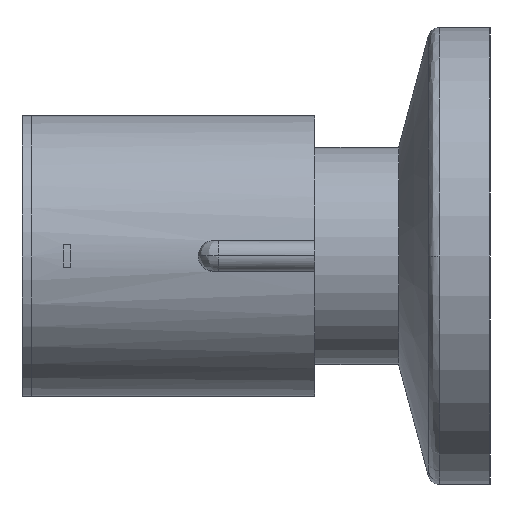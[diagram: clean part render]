
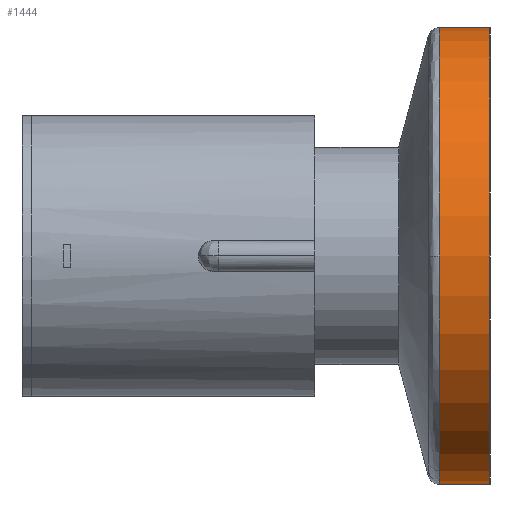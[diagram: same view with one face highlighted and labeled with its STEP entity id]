
A CAD part, left-side view. The second image highlights one B-rep face of the part: STEP entity #1444.
In plain terms, the highlighted cylindrical face has radius 30 mm (diameter 60 mm), a partial arc.
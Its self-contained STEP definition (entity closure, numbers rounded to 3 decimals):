
#106 = CARTESIAN_POINT ( 'NONE',  ( -24.933, 48.072, -30. ) ) ;
#187 = VECTOR ( 'NONE', #2060, 1000. ) ;
#219 = EDGE_LOOP ( 'NONE', ( #563, #913, #1733, #1413, #1689 ) ) ;
#388 = EDGE_CURVE ( 'NONE', #520, #2361, #850, .T. ) ;
#440 = EDGE_CURVE ( 'NONE', #1157, #1016, #1948, .T. ) ;
#497 = DIRECTION ( 'NONE',  ( 0., -1., 0. ) ) ;
#513 = CIRCLE ( 'NONE', #1240, 30. ) ;
#520 = VERTEX_POINT ( 'NONE', #1917 ) ;
#563 = ORIENTED_EDGE ( 'NONE', *, *, #1886, .F. ) ;
#633 = CARTESIAN_POINT ( 'NONE',  ( -24.933, 43.201, -30. ) ) ;
#647 = AXIS2_PLACEMENT_3D ( 'NONE', #673, #497, #1304 ) ;
#673 = CARTESIAN_POINT ( 'NONE',  ( -24.933, 48.072, 0. ) ) ;
#690 = CARTESIAN_POINT ( 'NONE',  ( -24.933, 48.072, 30. ) ) ;
#783 = DIRECTION ( 'NONE',  ( 0., -1., 0. ) ) ;
#850 = CIRCLE ( 'NONE', #2324, 30. ) ;
#893 = LINE ( 'NONE', #690, #2040 ) ;
#908 = FACE_OUTER_BOUND ( 'NONE', #219, .T. ) ;
#913 = ORIENTED_EDGE ( 'NONE', *, *, #388, .F. ) ;
#1007 = VERTEX_POINT ( 'NONE', #633 ) ;
#1016 = VERTEX_POINT ( 'NONE', #1857 ) ;
#1157 = VERTEX_POINT ( 'NONE', #1231 ) ;
#1231 = CARTESIAN_POINT ( 'NONE',  ( -24.933, 36.572, -30. ) ) ;
#1240 = AXIS2_PLACEMENT_3D ( 'NONE', #1255, #2053, #2281 ) ;
#1255 = CARTESIAN_POINT ( 'NONE',  ( -24.933, 43.201, 0. ) ) ;
#1304 = DIRECTION ( 'NONE',  ( 0., 0., -1. ) ) ;
#1388 = DIRECTION ( 'NONE',  ( 1., 0., 0. ) ) ;
#1413 = ORIENTED_EDGE ( 'NONE', *, *, #1797, .T. ) ;
#1444 = ADVANCED_FACE ( 'NONE', ( #908 ), #2108, .T. ) ;
#1522 = AXIS2_PLACEMENT_3D ( 'NONE', #1615, #2012, #1591 ) ;
#1591 = DIRECTION ( 'NONE',  ( 0., 0., -1. ) ) ;
#1615 = CARTESIAN_POINT ( 'NONE',  ( -24.933, 36.572, 0. ) ) ;
#1628 = CARTESIAN_POINT ( 'NONE',  ( -24.933, 43.201, 30. ) ) ;
#1689 = ORIENTED_EDGE ( 'NONE', *, *, #440, .T. ) ;
#1733 = ORIENTED_EDGE ( 'NONE', *, *, #2320, .F. ) ;
#1797 = EDGE_CURVE ( 'NONE', #1007, #1157, #2312, .T. ) ;
#1857 = CARTESIAN_POINT ( 'NONE',  ( -24.933, 36.572, 30. ) ) ;
#1886 = EDGE_CURVE ( 'NONE', #2361, #1016, #893, .T. ) ;
#1917 = CARTESIAN_POINT ( 'NONE',  ( -54.933, 43.201, 0. ) ) ;
#1948 = CIRCLE ( 'NONE', #1522, 30. ) ;
#2012 = DIRECTION ( 'NONE',  ( 0., 1., 0. ) ) ;
#2040 = VECTOR ( 'NONE', #783, 1000. ) ;
#2053 = DIRECTION ( 'NONE',  ( 0., 1., 0. ) ) ;
#2060 = DIRECTION ( 'NONE',  ( 0., -1., 0. ) ) ;
#2108 = CYLINDRICAL_SURFACE ( 'NONE', #647, 30. ) ;
#2197 = CARTESIAN_POINT ( 'NONE',  ( -24.933, 43.201, 0. ) ) ;
#2281 = DIRECTION ( 'NONE',  ( 1., 0., 0. ) ) ;
#2312 = LINE ( 'NONE', #106, #187 ) ;
#2320 = EDGE_CURVE ( 'NONE', #1007, #520, #513, .T. ) ;
#2324 = AXIS2_PLACEMENT_3D ( 'NONE', #2197, #2603, #1388 ) ;
#2361 = VERTEX_POINT ( 'NONE', #1628 ) ;
#2603 = DIRECTION ( 'NONE',  ( 0., 1., 0. ) ) ;
